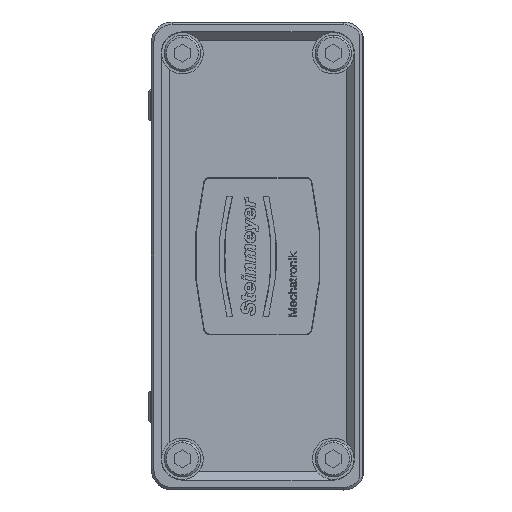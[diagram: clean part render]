
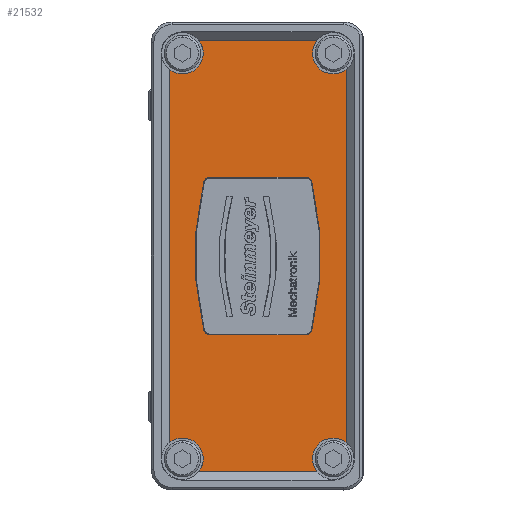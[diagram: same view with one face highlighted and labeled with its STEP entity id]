
A CAD part, left-side view. The second image highlights one B-rep face of the part: STEP entity #21532.
In plain terms, the highlighted planar face has unit normal (-1, 0, 0) as drawn and (0, 0, 1) by its records, which use the part's own axes.
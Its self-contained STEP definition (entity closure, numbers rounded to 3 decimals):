
#2738=CARTESIAN_POINT('',(-39.,6.,82.));
#2739=DIRECTION('',(0.,0.,1.));
#2740=DIRECTION('',(0.781,-0.625,0.));
#2741=AXIS2_PLACEMENT_3D('',#2738,#2739,#2740);
#2746=CARTESIAN_POINT('',(-39.,6.,82.));
#2747=DIRECTION('',(0.,0.,1.));
#2748=DIRECTION('',(0.,1.,0.));
#2749=AXIS2_PLACEMENT_3D('',#2746,#2747,#2748);
#2754=DIRECTION('',(0.,1.,0.));
#2755=VECTOR('',#2754,22.755);
#2756=CARTESIAN_POINT('',(-41.5,9.122,82.));
#2757=LINE('1316',#2756,#2755);
#2761=CARTESIAN_POINT('',(-39.,35.,82.));
#2762=DIRECTION('',(0.,0.,1.));
#2763=DIRECTION('',(-0.625,-0.781,0.));
#2764=AXIS2_PLACEMENT_3D('',#2761,#2762,#2763);
#2769=CARTESIAN_POINT('',(-39.,35.,82.));
#2770=DIRECTION('',(0.,0.,1.));
#2771=DIRECTION('',(0.,-1.,0.));
#2772=AXIS2_PLACEMENT_3D('',#2769,#2770,#2771);
#2777=DIRECTION('',(1.,0.,0.));
#2778=VECTOR('',#2777,71.755);
#2779=CARTESIAN_POINT('',(-35.878,37.5,82.));
#2780=LINE('1319',#2779,#2778);
#2784=CARTESIAN_POINT('',(39.,35.,82.));
#2785=DIRECTION('',(0.,0.,1.));
#2786=DIRECTION('',(-0.781,0.625,0.));
#2787=AXIS2_PLACEMENT_3D('',#2784,#2785,#2786);
#2792=CARTESIAN_POINT('',(39.,35.,82.));
#2793=DIRECTION('',(0.,0.,1.));
#2794=DIRECTION('',(0.,-1.,0.));
#2795=AXIS2_PLACEMENT_3D('',#2792,#2793,#2794);
#2800=DIRECTION('',(0.,-1.,0.));
#2801=VECTOR('',#2800,22.755);
#2802=CARTESIAN_POINT('',(41.5,31.878,82.));
#2803=LINE('1321',#2802,#2801);
#2807=CARTESIAN_POINT('',(39.,6.,82.));
#2808=DIRECTION('',(0.,0.,1.));
#2809=DIRECTION('',(0.625,0.781,0.));
#2810=AXIS2_PLACEMENT_3D('',#2807,#2808,#2809);
#2815=CARTESIAN_POINT('',(39.,6.,82.));
#2816=DIRECTION('',(0.,0.,1.));
#2817=DIRECTION('',(0.,1.,0.));
#2818=AXIS2_PLACEMENT_3D('',#2815,#2816,#2817);
#2823=DIRECTION('',(-1.,0.,0.));
#2824=VECTOR('',#2823,71.755);
#2825=CARTESIAN_POINT('',(35.878,3.5,82.));
#2826=LINE('1324',#2825,#2824);
#2830=CARTESIAN_POINT('',(14.,29.815,82.));
#2831=DIRECTION('',(0.,0.,1.));
#2832=DIRECTION('',(1.,0.,0.));
#2833=AXIS2_PLACEMENT_3D('',#2830,#2831,#2832);
#2838=CARTESIAN_POINT('',(0.,-27.5,82.));
#2839=DIRECTION('',(0.,0.,1.));
#2840=DIRECTION('',(0.237,0.971,0.));
#2841=AXIS2_PLACEMENT_3D('',#2838,#2839,#2840);
#2846=CARTESIAN_POINT('',(-14.,29.815,82.));
#2847=DIRECTION('',(0.,0.,1.));
#2848=DIRECTION('',(-0.237,0.971,0.));
#2849=AXIS2_PLACEMENT_3D('',#2846,#2847,#2848);
#2854=CARTESIAN_POINT('',(-14.,11.185,82.));
#2855=DIRECTION('',(0.,0.,1.));
#2856=DIRECTION('',(-1.,0.,0.));
#2857=AXIS2_PLACEMENT_3D('',#2854,#2855,#2856);
#2862=CARTESIAN_POINT('',(0.,68.5,82.));
#2863=DIRECTION('',(0.,0.,1.));
#2864=DIRECTION('',(-0.237,-0.971,0.));
#2865=AXIS2_PLACEMENT_3D('',#2862,#2863,#2864);
#2870=CARTESIAN_POINT('',(14.,11.185,82.));
#2871=DIRECTION('',(0.,0.,1.));
#2872=DIRECTION('',(0.237,-0.971,0.));
#2873=AXIS2_PLACEMENT_3D('',#2870,#2871,#2872);
#4026=DIRECTION('',(0.,-1.,0.));
#4027=VECTOR('',#4026,18.63);
#4028=CARTESIAN_POINT('',(15.1,29.815,82.));
#4029=LINE('1332',#4028,#4027);
#4061=DIRECTION('',(0.,1.,0.));
#4062=VECTOR('',#4061,18.63);
#4063=CARTESIAN_POINT('',(-15.1,11.185,82.));
#4064=LINE('1328',#4063,#4062);
#17870=CARTESIAN_POINT('',(39.,31.,82.));
#17871=CARTESIAN_POINT('',(41.5,31.878,82.));
#17872=VERTEX_POINT('',#17870);
#17873=VERTEX_POINT('',#17871);
#17879=CARTESIAN_POINT('',(-35.878,3.5,82.));
#17880=CARTESIAN_POINT('',(-39.,10.,82.));
#17881=VERTEX_POINT('',#17879);
#17882=VERTEX_POINT('',#17880);
#17883=CARTESIAN_POINT('',(-41.5,9.122,82.));
#17884=VERTEX_POINT('',#17883);
#17885=CARTESIAN_POINT('',(-41.5,31.878,82.));
#17886=VERTEX_POINT('',#17885);
#17887=CARTESIAN_POINT('',(-39.,31.,82.));
#17888=VERTEX_POINT('',#17887);
#17889=CARTESIAN_POINT('',(-35.878,37.5,82.));
#17890=VERTEX_POINT('',#17889);
#17891=CARTESIAN_POINT('',(35.878,37.5,82.));
#17892=VERTEX_POINT('',#17891);
#17893=CARTESIAN_POINT('',(41.5,9.122,82.));
#17894=VERTEX_POINT('',#17893);
#17895=CARTESIAN_POINT('',(39.,10.,82.));
#17896=VERTEX_POINT('',#17895);
#17897=CARTESIAN_POINT('',(35.878,3.5,82.));
#17898=VERTEX_POINT('',#17897);
#17899=CARTESIAN_POINT('',(15.1,29.815,82.));
#17900=CARTESIAN_POINT('',(14.261,30.884,82.));
#17901=VERTEX_POINT('',#17899);
#17902=VERTEX_POINT('',#17900);
#17903=CARTESIAN_POINT('',(-14.261,30.884,82.));
#17904=VERTEX_POINT('',#17903);
#17905=CARTESIAN_POINT('',(-15.1,29.815,82.));
#17906=VERTEX_POINT('',#17905);
#17907=CARTESIAN_POINT('',(-15.1,11.185,82.));
#17908=VERTEX_POINT('',#17907);
#17909=CARTESIAN_POINT('',(-14.261,10.116,82.));
#17910=VERTEX_POINT('',#17909);
#17911=CARTESIAN_POINT('',(14.261,10.116,82.));
#17912=VERTEX_POINT('',#17911);
#17913=CARTESIAN_POINT('',(15.1,11.185,82.));
#17914=VERTEX_POINT('',#17913);
#21484=CARTESIAN_POINT('',(45.,20.5,82.));
#21485=DIRECTION('',(0.,0.,1.));
#21486=DIRECTION('',(1.,0.,0.));
#21487=AXIS2_PLACEMENT_3D('',#21484,#21485,#21486);
#21488=PLANE('335',#21487);
#21490=ORIENTED_EDGE('1314',*,*,#21489,.T.);
#21492=ORIENTED_EDGE('1315',*,*,#21491,.T.);
#21494=ORIENTED_EDGE('1316',*,*,#21493,.T.);
#21496=ORIENTED_EDGE('1317',*,*,#21495,.T.);
#21498=ORIENTED_EDGE('1318',*,*,#21497,.T.);
#21500=ORIENTED_EDGE('1319',*,*,#21499,.T.);
#21502=ORIENTED_EDGE('1320',*,*,#21501,.T.);
#21503=ORIENTED_EDGE('1308',*,*,#21468,.T.);
#21505=ORIENTED_EDGE('1321',*,*,#21504,.T.);
#21507=ORIENTED_EDGE('1322',*,*,#21506,.T.);
#21509=ORIENTED_EDGE('1323',*,*,#21508,.T.);
#21511=ORIENTED_EDGE('1324',*,*,#21510,.T.);
#21512=EDGE_LOOP('335',(#21490,#21492,#21494,#21496,#21498,#21500,#21502,#21503,
#21505,#21507,#21509,#21511));
#21513=FACE_OUTER_BOUND('335',#21512,.F.);
#21515=ORIENTED_EDGE('1325',*,*,#21514,.T.);
#21517=ORIENTED_EDGE('1326',*,*,#21516,.T.);
#21519=ORIENTED_EDGE('1327',*,*,#21518,.T.);
#21521=ORIENTED_EDGE('1328',*,*,#21520,.F.);
#21523=ORIENTED_EDGE('1329',*,*,#21522,.T.);
#21525=ORIENTED_EDGE('1330',*,*,#21524,.T.);
#21527=ORIENTED_EDGE('1331',*,*,#21526,.T.);
#21529=ORIENTED_EDGE('1332',*,*,#21528,.F.);
#21530=EDGE_LOOP('335',(#21515,#21517,#21519,#21521,#21523,#21525,#21527,
#21529));
#21531=FACE_BOUND('335',#21530,.F.);
#2742=CIRCLE('1314',#2741,4.);
#2750=CIRCLE('1315',#2749,4.);
#2765=CIRCLE('1317',#2764,4.);
#2773=CIRCLE('1318',#2772,4.);
#2788=CIRCLE('1320',#2787,4.);
#2796=CIRCLE('1308',#2795,4.);
#2811=CIRCLE('1322',#2810,4.);
#2819=CIRCLE('1323',#2818,4.);
#2834=CIRCLE('1325',#2833,1.1);
#2842=CIRCLE('1326',#2841,60.1);
#2850=CIRCLE('1327',#2849,1.1);
#2858=CIRCLE('1329',#2857,1.1);
#2866=CIRCLE('1330',#2865,60.1);
#2874=CIRCLE('1331',#2873,1.1);
#21468=EDGE_CURVE('1308',#17872,#17873,#2796,.T.);
#21489=EDGE_CURVE('1314',#17881,#17882,#2742,.T.);
#21491=EDGE_CURVE('1315',#17882,#17884,#2750,.T.);
#21493=EDGE_CURVE('1316',#17884,#17886,#2757,.T.);
#21495=EDGE_CURVE('1317',#17886,#17888,#2765,.T.);
#21497=EDGE_CURVE('1318',#17888,#17890,#2773,.T.);
#21499=EDGE_CURVE('1319',#17890,#17892,#2780,.T.);
#21501=EDGE_CURVE('1320',#17892,#17872,#2788,.T.);
#21504=EDGE_CURVE('1321',#17873,#17894,#2803,.T.);
#21506=EDGE_CURVE('1322',#17894,#17896,#2811,.T.);
#21508=EDGE_CURVE('1323',#17896,#17898,#2819,.T.);
#21510=EDGE_CURVE('1324',#17898,#17881,#2826,.T.);
#21514=EDGE_CURVE('1325',#17901,#17902,#2834,.T.);
#21516=EDGE_CURVE('1326',#17902,#17904,#2842,.T.);
#21518=EDGE_CURVE('1327',#17904,#17906,#2850,.T.);
#21520=EDGE_CURVE('1328',#17908,#17906,#4064,.T.);
#21522=EDGE_CURVE('1329',#17908,#17910,#2858,.T.);
#21524=EDGE_CURVE('1330',#17910,#17912,#2866,.T.);
#21526=EDGE_CURVE('1331',#17912,#17914,#2874,.T.);
#21528=EDGE_CURVE('1332',#17901,#17914,#4029,.T.);
#21532=ADVANCED_FACE('335',(#21513,#21531),#21488,.T.);
